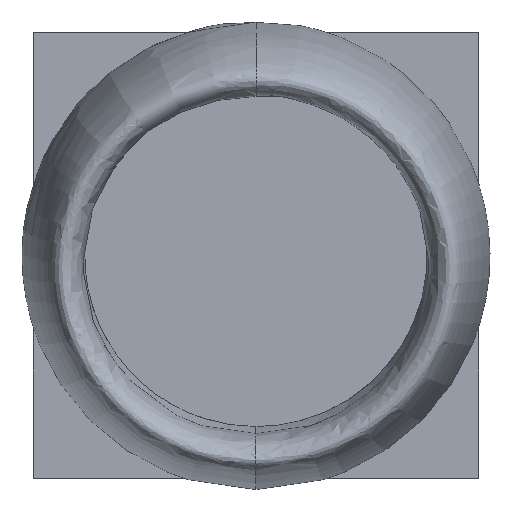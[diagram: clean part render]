
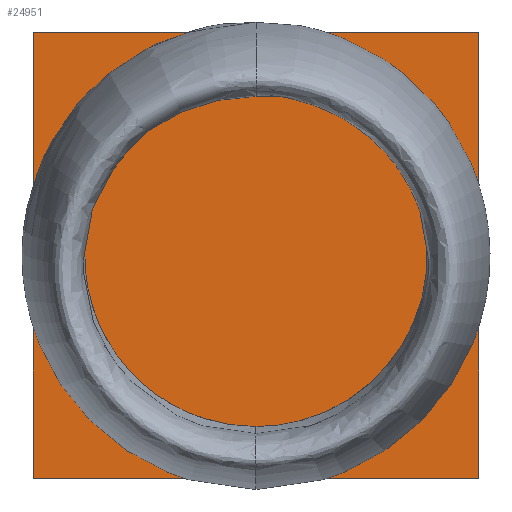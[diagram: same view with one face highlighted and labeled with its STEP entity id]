
A CAD part, left-side view. The second image highlights one B-rep face of the part: STEP entity #24951.
In plain terms, the highlighted planar face has unit normal (1, 0, 0).
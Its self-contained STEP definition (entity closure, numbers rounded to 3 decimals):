
#24912=CARTESIAN_POINT('Axis2P3D Location',(0.,1905.,1905.)) ;
#24917=CARTESIAN_POINT('Line Origine',(0.,0.,1905.)) ;
#24921=CARTESIAN_POINT('Vertex',(0.,1905.,1905.)) ;
#24923=CARTESIAN_POINT('Vertex',(0.,-1905.,1905.)) ;
#24926=CARTESIAN_POINT('Line Origine',(0.,-1905.,0.)) ;
#24930=CARTESIAN_POINT('Vertex',(0.,-1905.,-1905.)) ;
#24933=CARTESIAN_POINT('Line Origine',(0.,0.,-1905.)) ;
#24937=CARTESIAN_POINT('Vertex',(0.,1905.,-1905.)) ;
#24940=CARTESIAN_POINT('Line Origine',(0.,1905.,0.)) ;
#24913=DIRECTION('Axis2P3D Direction',(1.,0.,-0.)) ;
#24914=DIRECTION('Axis2P3D XDirection',(0.,-1.,0.)) ;
#24918=DIRECTION('Vector Direction',(0.,-1.,0.)) ;
#24927=DIRECTION('Vector Direction',(0.,0.,-1.)) ;
#24934=DIRECTION('Vector Direction',(0.,1.,0.)) ;
#24941=DIRECTION('Vector Direction',(0.,0.,1.)) ;
#24915=AXIS2_PLACEMENT_3D('Plane Axis2P3D',#24912,#24913,#24914) ;
#24946=ORIENTED_EDGE('',*,*,#24925,.T.) ;
#24947=ORIENTED_EDGE('',*,*,#24932,.T.) ;
#24948=ORIENTED_EDGE('',*,*,#24939,.T.) ;
#24949=ORIENTED_EDGE('',*,*,#24944,.T.) ;
#24919=VECTOR('Line Direction',#24918,1.) ;
#24928=VECTOR('Line Direction',#24927,1.) ;
#24935=VECTOR('Line Direction',#24934,1.) ;
#24942=VECTOR('Line Direction',#24941,1.) ;
#24951=ADVANCED_FACE('NACL01TE',(#24950),#24916,.T.) ;
#24925=EDGE_CURVE('',#24922,#24924,#24920,.T.) ;
#24932=EDGE_CURVE('',#24924,#24931,#24929,.T.) ;
#24939=EDGE_CURVE('',#24931,#24938,#24936,.T.) ;
#24944=EDGE_CURVE('',#24938,#24922,#24943,.T.) ;
#24945=EDGE_LOOP('',(#24946,#24947,#24948,#24949)) ;
#24950=FACE_OUTER_BOUND('',#24945,.T.) ;
#24920=LINE('Line',#24917,#24919) ;
#24929=LINE('Line',#24926,#24928) ;
#24936=LINE('Line',#24933,#24935) ;
#24943=LINE('Line',#24940,#24942) ;
#24916=PLANE('',#24915) ;
#24922=VERTEX_POINT('',#24921) ;
#24924=VERTEX_POINT('',#24923) ;
#24931=VERTEX_POINT('',#24930) ;
#24938=VERTEX_POINT('',#24937) ;
